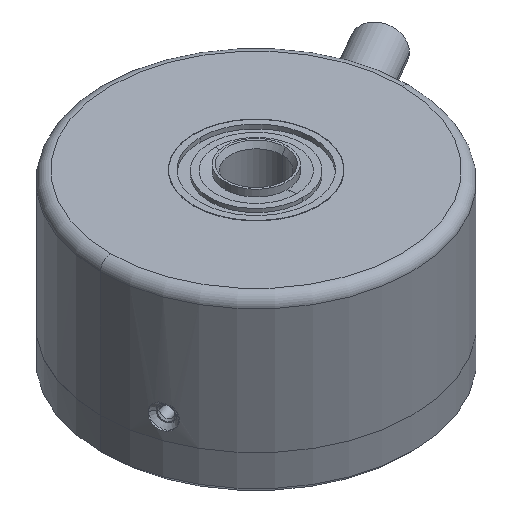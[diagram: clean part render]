
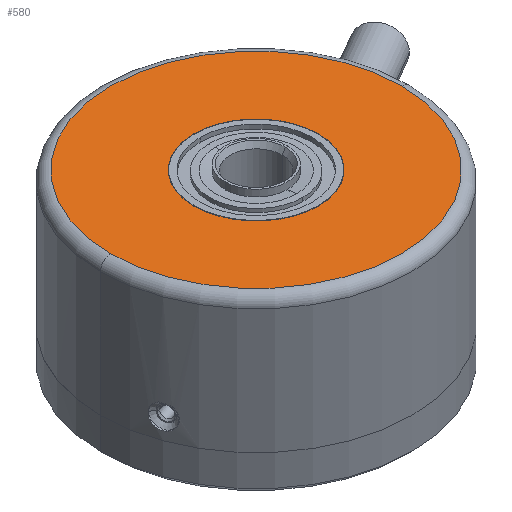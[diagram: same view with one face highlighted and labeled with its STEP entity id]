
A CAD part, isometric view. The second image highlights one B-rep face of the part: STEP entity #580.
In plain terms, the highlighted planar face has unit normal (0, 0, 1).
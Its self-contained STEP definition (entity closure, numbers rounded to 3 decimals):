
#580=ADVANCED_FACE('',(#973,#974),#975,.T.);
#973=FACE_OUTER_BOUND('',#1394,.T.);
#974=FACE_BOUND('',#1395,.T.);
#975=PLANE('',#1396);
#1394=EDGE_LOOP('',(#2725,#2726));
#1395=EDGE_LOOP('',(#2727,#2728));
#1396=AXIS2_PLACEMENT_3D('',#2729,#2730,#2731);
#2725=ORIENTED_EDGE('',*,*,#3228,.T.);
#2726=ORIENTED_EDGE('',*,*,#3302,.T.);
#2727=ORIENTED_EDGE('',*,*,#3220,.T.);
#2728=ORIENTED_EDGE('',*,*,#3305,.T.);
#2729=CARTESIAN_POINT('',(0.0,0.0,16.5));
#2730=DIRECTION('',(0.0,0.0,1.0));
#2731=DIRECTION('',(1.0,0.0,0.0));
#3220=EDGE_CURVE('',#3849,#3853,#3855,.T.);
#3228=EDGE_CURVE('',#3865,#3869,#3871,.T.);
#3302=EDGE_CURVE('',#3869,#3865,#3990,.T.);
#3305=EDGE_CURVE('',#3853,#3849,#3993,.T.);
#3849=VERTEX_POINT('',#4800);
#3853=VERTEX_POINT('',#4805);
#3855=CIRCLE('',#4808,6.0);
#3865=VERTEX_POINT('',#4820);
#3869=VERTEX_POINT('',#4824);
#3871=CIRCLE('',#4826,14.0);
#3990=CIRCLE('',#5244,14.0);
#3993=CIRCLE('',#5247,6.0);
#4800=CARTESIAN_POINT('',(6.0,0.0,16.5));
#4805=CARTESIAN_POINT('',(-6.0,0.,16.5));
#4808=AXIS2_PLACEMENT_3D('',#5964,#5965,#5966);
#4820=CARTESIAN_POINT('',(14.0,0.0,16.5));
#4824=CARTESIAN_POINT('',(-14.0,0.,16.5));
#4826=AXIS2_PLACEMENT_3D('',#5984,#5985,#5986);
#5244=AXIS2_PLACEMENT_3D('',#6093,#6094,#6095);
#5247=AXIS2_PLACEMENT_3D('',#6102,#6103,#6104);
#5964=CARTESIAN_POINT('',(0.0,0.0,16.5));
#5965=DIRECTION('',(0.0,0.0,-1.0));
#5966=DIRECTION('',(1.0,0.0,0.0));
#5984=CARTESIAN_POINT('',(0.0,0.0,16.5));
#5985=DIRECTION('',(0.0,0.0,1.0));
#5986=DIRECTION('',(1.0,0.0,0.0));
#6093=CARTESIAN_POINT('',(0.0,0.0,16.5));
#6094=DIRECTION('',(0.0,0.0,1.0));
#6095=DIRECTION('',(1.0,0.0,0.0));
#6102=CARTESIAN_POINT('',(0.0,0.0,16.5));
#6103=DIRECTION('',(0.0,0.0,-1.0));
#6104=DIRECTION('',(1.0,0.0,0.0));
